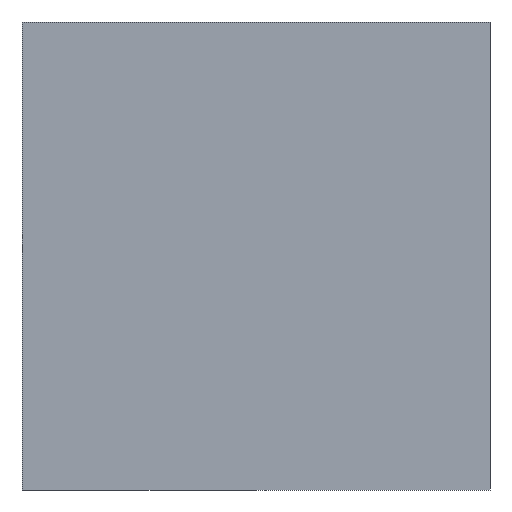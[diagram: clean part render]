
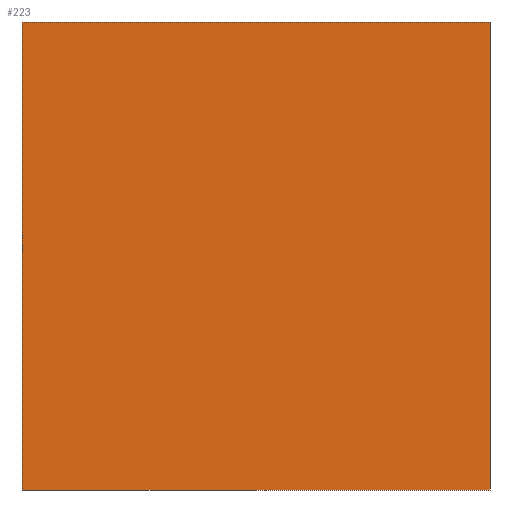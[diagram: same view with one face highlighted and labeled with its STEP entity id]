
A CAD part, left-side view. The second image highlights one B-rep face of the part: STEP entity #223.
In plain terms, the highlighted planar face has unit normal (-1, 0, 0).
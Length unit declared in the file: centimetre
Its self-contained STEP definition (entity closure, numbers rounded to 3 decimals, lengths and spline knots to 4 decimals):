
#2 = ORIENTED_EDGE ( 'NONE', *, *, #420, .F. ) ;
#15 = VECTOR ( 'NONE', #166, 100. ) ;
#30 = LINE ( 'NONE', #424, #15 ) ;
#39 = DIRECTION ( 'NONE',  ( 0., -1., 0. ) ) ;
#43 = CARTESIAN_POINT ( 'NONE',  ( 0., 1000., 1000. ) ) ;
#47 = VECTOR ( 'NONE', #211, 100. ) ;
#55 = LINE ( 'NONE', #196, #47 ) ;
#66 = LINE ( 'NONE', #43, #152 ) ;
#76 = VERTEX_POINT ( 'NONE', #200 ) ;
#100 = FACE_OUTER_BOUND ( 'NONE', #418, .T. ) ;
#103 = EDGE_CURVE ( 'NONE', #76, #277, #30, .T. ) ;
#119 = EDGE_CURVE ( 'NONE', #168, #76, #55, .T. ) ;
#152 = VECTOR ( 'NONE', #39, 100. ) ;
#166 = DIRECTION ( 'NONE',  ( 0., -1., 0. ) ) ;
#168 = VERTEX_POINT ( 'NONE', #409 ) ;
#174 = DIRECTION ( 'NONE',  ( 1., 0., 0. ) ) ;
#196 = CARTESIAN_POINT ( 'NONE',  ( 0., 1000., 1000. ) ) ;
#200 = CARTESIAN_POINT ( 'NONE',  ( 0., 1000., 0. ) ) ;
#202 = LINE ( 'NONE', #329, #291 ) ;
#211 = DIRECTION ( 'NONE',  ( 0., 0., -1. ) ) ;
#214 = CARTESIAN_POINT ( 'NONE',  ( 0., 1000., 1000. ) ) ;
#223 = ADVANCED_FACE ( 'NONE', ( #100 ), #371, .F. ) ;
#225 = EDGE_CURVE ( 'NONE', #168, #288, #66, .T. ) ;
#239 = DIRECTION ( 'NONE',  ( 0., 0., -1. ) ) ;
#264 = DIRECTION ( 'NONE',  ( 0., 0., -1. ) ) ;
#277 = VERTEX_POINT ( 'NONE', #339 ) ;
#288 = VERTEX_POINT ( 'NONE', #415 ) ;
#291 = VECTOR ( 'NONE', #264, 100. ) ;
#309 = AXIS2_PLACEMENT_3D ( 'NONE', #214, #174, #239 ) ;
#323 = ORIENTED_EDGE ( 'NONE', *, *, #225, .F. ) ;
#329 = CARTESIAN_POINT ( 'NONE',  ( 0., 0., 1000. ) ) ;
#339 = CARTESIAN_POINT ( 'NONE',  ( 0., 0., 0. ) ) ;
#369 = ORIENTED_EDGE ( 'NONE', *, *, #103, .T. ) ;
#371 = PLANE ( 'NONE',  #309 ) ;
#384 = ORIENTED_EDGE ( 'NONE', *, *, #119, .T. ) ;
#409 = CARTESIAN_POINT ( 'NONE',  ( 0., 1000., 1000. ) ) ;
#415 = CARTESIAN_POINT ( 'NONE',  ( 0., 0., 1000. ) ) ;
#418 = EDGE_LOOP ( 'NONE', ( #369, #2, #323, #384 ) ) ;
#420 = EDGE_CURVE ( 'NONE', #288, #277, #202, .T. ) ;
#424 = CARTESIAN_POINT ( 'NONE',  ( 0., 1000., 0. ) ) ;
